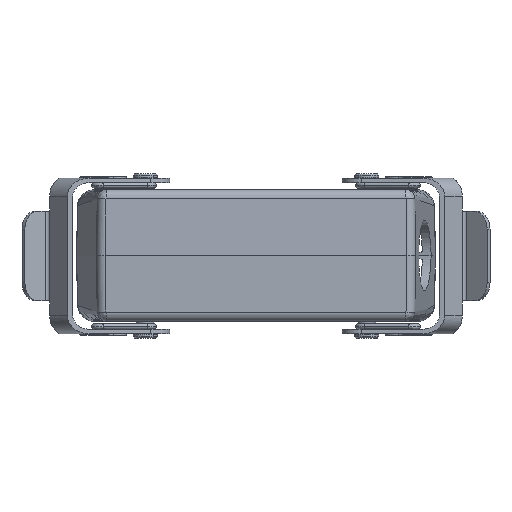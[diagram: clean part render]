
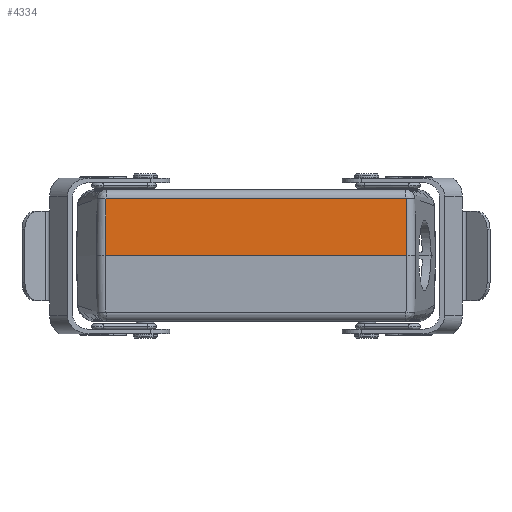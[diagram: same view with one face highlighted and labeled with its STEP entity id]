
A CAD part, top view. The second image highlights one B-rep face of the part: STEP entity #4334.
In plain terms, the highlighted planar face has unit normal (0, 0.018, 1).
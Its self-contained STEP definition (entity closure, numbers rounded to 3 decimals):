
#474 = EDGE_LOOP ( 'NONE', ( #24608, #23524, #18332, #16852, #26127, #3205 ) ) ;
#1231 = CARTESIAN_POINT ( 'NONE',  ( 50.43, 0., 60. ) ) ;
#1241 = CARTESIAN_POINT ( 'NONE',  ( -50.088, 19.04, 59.668 ) ) ;
#2257 = EDGE_CURVE ( 'NONE', #24337, #26172, #21314, .T. ) ;
#2495 = LINE ( 'NONE', #25835, #15768 ) ;
#3205 = ORIENTED_EDGE ( 'NONE', *, *, #19513, .F. ) ;
#3562 = CARTESIAN_POINT ( 'NONE',  ( -52.947, 0., 60. ) ) ;
#3716 = EDGE_CURVE ( 'NONE', #24337, #26679, #11094, .T. ) ;
#4024 = CARTESIAN_POINT ( 'NONE',  ( -50.057, 19.052, 59.667 ) ) ;
#4231 = CARTESIAN_POINT ( 'NONE',  ( -50.153, 18.923, 59.67 ) ) ;
#4334 = ADVANCED_FACE ( 'NONE', ( #24893 ), #22113, .T. ) ;
#4879 = CARTESIAN_POINT ( 'NONE',  ( 50.152, 18.959, 59.669 ) ) ;
#5482 = VECTOR ( 'NONE', #5683, 1000. ) ;
#5529 = AXIS2_PLACEMENT_3D ( 'NONE', #17587, #9227, #7066 ) ;
#5568 = CARTESIAN_POINT ( 'NONE',  ( 50.153, 18.923, 59.67 ) ) ;
#5683 = DIRECTION ( 'NONE',  ( 1., 0., 0. ) ) ;
#6392 = CARTESIAN_POINT ( 'NONE',  ( 50.43, 0., 60. ) ) ;
#6835 = VERTEX_POINT ( 'NONE', #15997 ) ;
#6905 = CARTESIAN_POINT ( 'NONE',  ( 50.057, 19.052, 59.667 ) ) ;
#7066 = DIRECTION ( 'NONE',  ( 0., -1., 0.017 ) ) ;
#7194 = CARTESIAN_POINT ( 'NONE',  ( 50.021, 19.052, 59.667 ) ) ;
#7202 = CARTESIAN_POINT ( 'NONE',  ( -50.43, 0., 60. ) ) ;
#7803 = EDGE_CURVE ( 'NONE', #26679, #6835, #2495, .T. ) ;
#8040 = EDGE_CURVE ( 'NONE', #12163, #26172, #10187, .T. ) ;
#8186 = CARTESIAN_POINT ( 'NONE',  ( -50.153, 18.923, 59.67 ) ) ;
#8273 = CARTESIAN_POINT ( 'NONE',  ( -50.43, 0., 60. ) ) ;
#8424 = VERTEX_POINT ( 'NONE', #4231 ) ;
#8939 = B_SPLINE_CURVE_WITH_KNOTS ( 'NONE', 3,
 ( #9833, #4024, #1241, #22512, #26636, #26452 ),
 .UNSPECIFIED., .F., .F.,
 ( 4, 2, 4 ),
 ( 0., 0.5, 1. ),
 .UNSPECIFIED. ) ;
#9227 = DIRECTION ( 'NONE',  ( 0., 0.017, 1. ) ) ;
#9833 = CARTESIAN_POINT ( 'NONE',  ( -50.021, 19.052, 59.667 ) ) ;
#10187 = LINE ( 'NONE', #3562, #5482 ) ;
#11094 = B_SPLINE_CURVE_WITH_KNOTS ( 'NONE', 3,
 ( #24000, #4879, #25827, #19629, #6905, #7194 ),
 .UNSPECIFIED., .F., .F.,
 ( 4, 2, 4 ),
 ( 0., 0.5, 1. ),
 .UNSPECIFIED. ) ;
#11749 = DIRECTION ( 'NONE',  ( -1., 0., 0. ) ) ;
#12163 = VERTEX_POINT ( 'NONE', #7202 ) ;
#14390 = CARTESIAN_POINT ( 'NONE',  ( -50.338, 6.308, 59.89 ) ) ;
#15768 = VECTOR ( 'NONE', #11749, 1000. ) ;
#15997 = CARTESIAN_POINT ( 'NONE',  ( -50.021, 19.052, 59.667 ) ) ;
#16852 = ORIENTED_EDGE ( 'NONE', *, *, #7803, .T. ) ;
#17587 = CARTESIAN_POINT ( 'NONE',  ( -52.947, 0., 60. ) ) ;
#18332 = ORIENTED_EDGE ( 'NONE', *, *, #3716, .T. ) ;
#19513 = EDGE_CURVE ( 'NONE', #12163, #8424, #21772, .T. ) ;
#19629 = CARTESIAN_POINT ( 'NONE',  ( 50.088, 19.04, 59.668 ) ) ;
#21165 = CARTESIAN_POINT ( 'NONE',  ( 50.021, 19.052, 59.667 ) ) ;
#21314 = B_SPLINE_CURVE_WITH_KNOTS ( 'NONE', 3,
 ( #5568, #26620, #24628, #1231 ),
 .UNSPECIFIED., .F., .F.,
 ( 4, 4 ),
 ( 0., 1. ),
 .UNSPECIFIED. ) ;
#21772 = B_SPLINE_CURVE_WITH_KNOTS ( 'NONE', 3,
 ( #8273, #14390, #24808, #8186 ),
 .UNSPECIFIED., .F., .F.,
 ( 4, 4 ),
 ( 0., 1. ),
 .UNSPECIFIED. ) ;
#22113 = PLANE ( 'NONE',  #5529 ) ;
#22512 = CARTESIAN_POINT ( 'NONE',  ( -50.139, 18.99, 59.669 ) ) ;
#23524 = ORIENTED_EDGE ( 'NONE', *, *, #2257, .F. ) ;
#24000 = CARTESIAN_POINT ( 'NONE',  ( 50.153, 18.923, 59.67 ) ) ;
#24337 = VERTEX_POINT ( 'NONE', #25213 ) ;
#24572 = EDGE_CURVE ( 'NONE', #6835, #8424, #8939, .T. ) ;
#24608 = ORIENTED_EDGE ( 'NONE', *, *, #8040, .T. ) ;
#24628 = CARTESIAN_POINT ( 'NONE',  ( 50.338, 6.308, 59.89 ) ) ;
#24808 = CARTESIAN_POINT ( 'NONE',  ( -50.245, 12.615, 59.78 ) ) ;
#24893 = FACE_OUTER_BOUND ( 'NONE', #474, .T. ) ;
#25213 = CARTESIAN_POINT ( 'NONE',  ( 50.153, 18.923, 59.67 ) ) ;
#25827 = CARTESIAN_POINT ( 'NONE',  ( 50.139, 18.99, 59.669 ) ) ;
#25835 = CARTESIAN_POINT ( 'NONE',  ( -52.947, 19.052, 59.667 ) ) ;
#26127 = ORIENTED_EDGE ( 'NONE', *, *, #24572, .T. ) ;
#26172 = VERTEX_POINT ( 'NONE', #6392 ) ;
#26452 = CARTESIAN_POINT ( 'NONE',  ( -50.153, 18.923, 59.67 ) ) ;
#26620 = CARTESIAN_POINT ( 'NONE',  ( 50.245, 12.615, 59.78 ) ) ;
#26636 = CARTESIAN_POINT ( 'NONE',  ( -50.152, 18.959, 59.669 ) ) ;
#26679 = VERTEX_POINT ( 'NONE', #21165 ) ;
